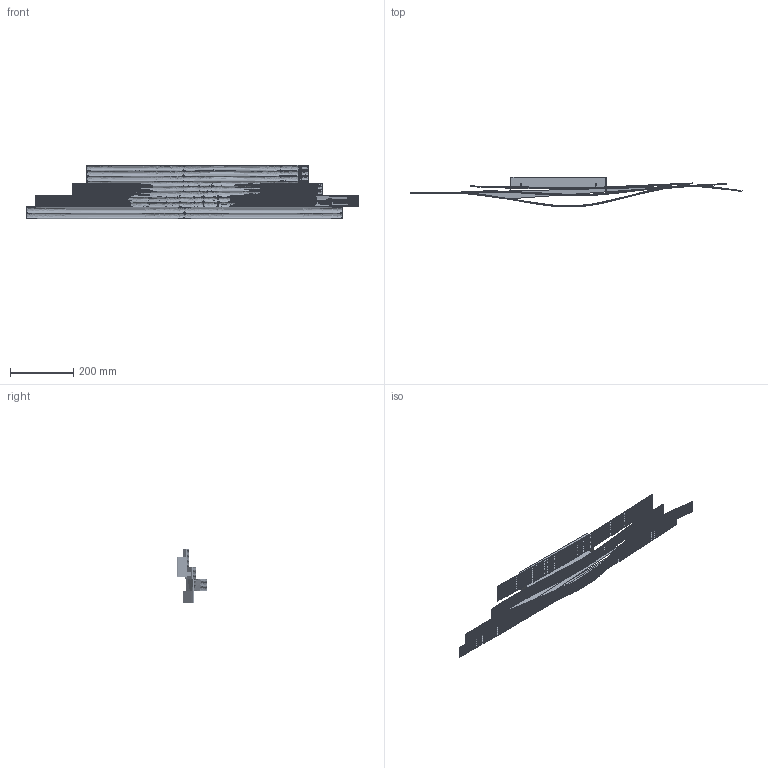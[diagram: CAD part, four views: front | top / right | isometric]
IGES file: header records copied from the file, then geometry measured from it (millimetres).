
Start section:  Autodesk DirectConnect version 8.0.53.0 ---- IGES version 5.3
Global section: file name: D:\LAURA\5-DESCARGAS\WEB\CORRECTOS\arturo-alvarez_2D-3D_LI06G\LI06G_3D.igs; native system: Autodesk DirectConnect 8.0.53.0; preprocessor: 8.0.53.0; author: UsuarioLaura; organization: Unknown; date: 20150203.132108; units: millimetre
Bounding box: 1048.91 x 94.12 x 167.47 mm (x, y, z)
Surface area: 751470.5 mm2 (no closed solid volume)
Topology: 0 solids, 0 shells, 331 faces, 3559 edges, 3540 vertices
Faces by surface type: bspline 331
